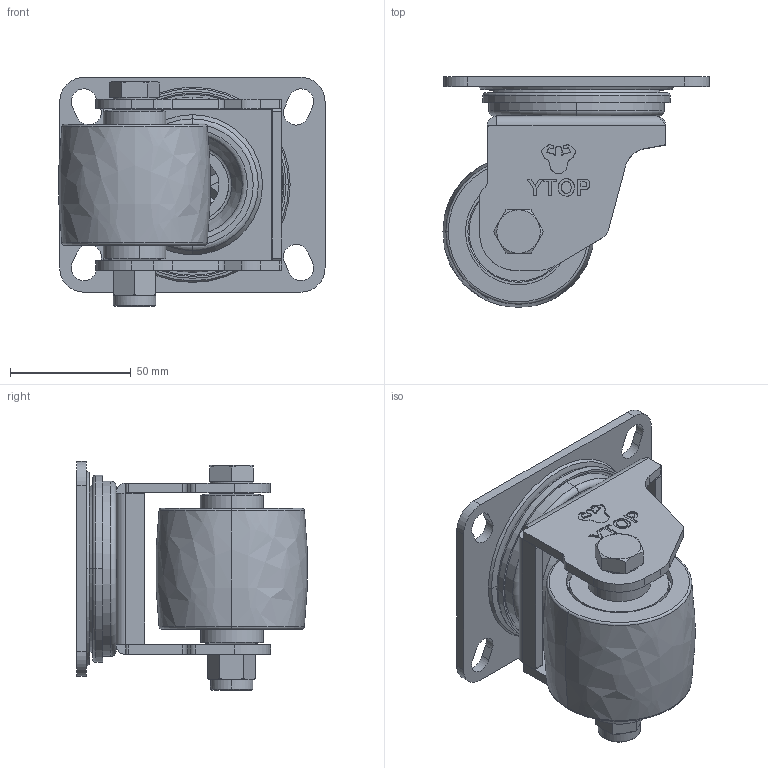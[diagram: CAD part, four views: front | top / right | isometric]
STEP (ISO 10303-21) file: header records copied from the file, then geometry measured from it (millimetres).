
FILE_DESCRIPTION((''),'2;1');
FILE_NAME('09114447_ASM','2023-09-15T',('Administrator'),(''),'PRO/ENGINEER BY PARAMETRIC TECHNOLOGY CORPORATION, 2015240','PRO/ENGINEER BY PARAMETRIC TECHNOLOGY CORPORATION, 2015240','');
FILE_SCHEMA(('CONFIG_CONTROL_DESIGN'));
Length unit declared in the file: millimetre
Products named in the file (20): ____10_10_; ____10_5_; L3__LL__-26159_; L3_L__-L_65_; 3_L_-_L-14897_; PRODUCT_4528_; GB__T97__1-2002______A__16__3_; 11144__ASM; E_3B_________; 3VVV_PA6_6-3725_; GB__T276-94__________6203-2Z_; 3_____________________10_1___; ________________17X12X62_2_; 3_GG_PA6V__-26387__ASM; GB__T5782-2000___B___A____B__; ____________3_________________; GB__T889__1-20001_H; ______________; 20B-75H-50-PA6__L3__P__ASM; 09114447_ASM
Assembly tree (65 placements, depth 4):
  09114447_ASM
    20B-75H-50-PA6__L3__P__ASM
      11144__ASM
        ____10_10_  x18
        ____10_5_  x28
        L3__LL__-26159_
        L3_L__-L_65_
        3_L_-_L-14897_
        PRODUCT_4528_
        GB__T97__1-2002______A__16__3_
      E_3B_________
      3_GG_PA6V__-26387__ASM
        3VVV_PA6_6-3725_
        GB__T276-94__________6203-2Z_  x2
        3_____________________10_1___  x2
        ________________17X12X62_2_
      GB__T5782-2000___B___A____B__
      ____________3_________________
      GB__T889__1-20001_H
      ______________
Bounding box: 110.35 x 95.61 x 95 mm (x, y, z)
Volume: 263042.9 mm3; surface area: 144586.1 mm2
Topology: 62 solids, 62 shells, 1141 faces, 3212 edges, 2027 vertices
Faces by surface type: sphere 312, plane 283, cylinder 172, extrusion 166, torus 134, cone 68, bspline 6
Entity records: 30917 total; most frequent: CARTESIAN_POINT 10446, ORIENTED_EDGE 4288, DIRECTION 3946, EDGE_CURVE 2144, AXIS2_PLACEMENT_3D 1514, VERTEX_POINT 1397, VECTOR 918, EDGE_LOOP 903
